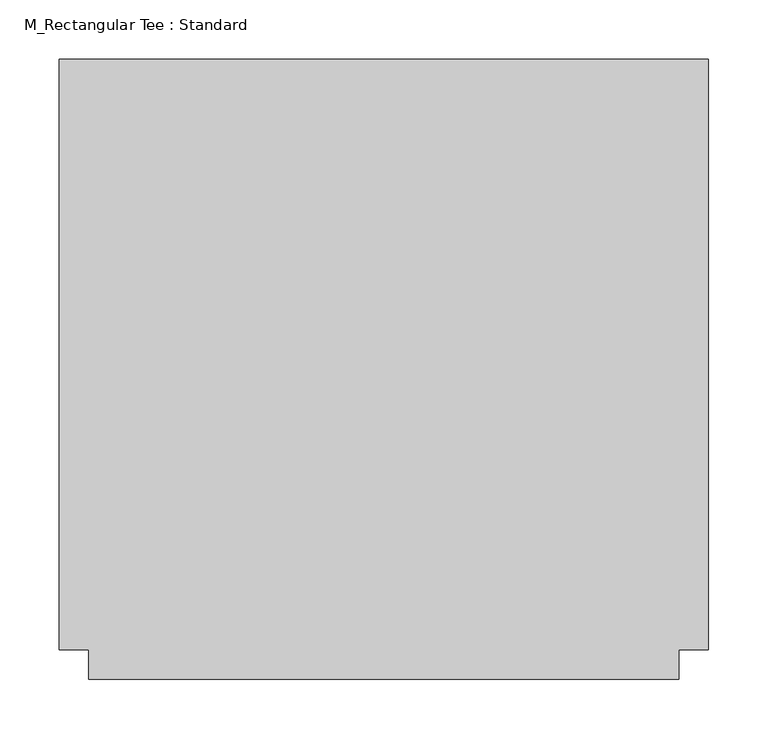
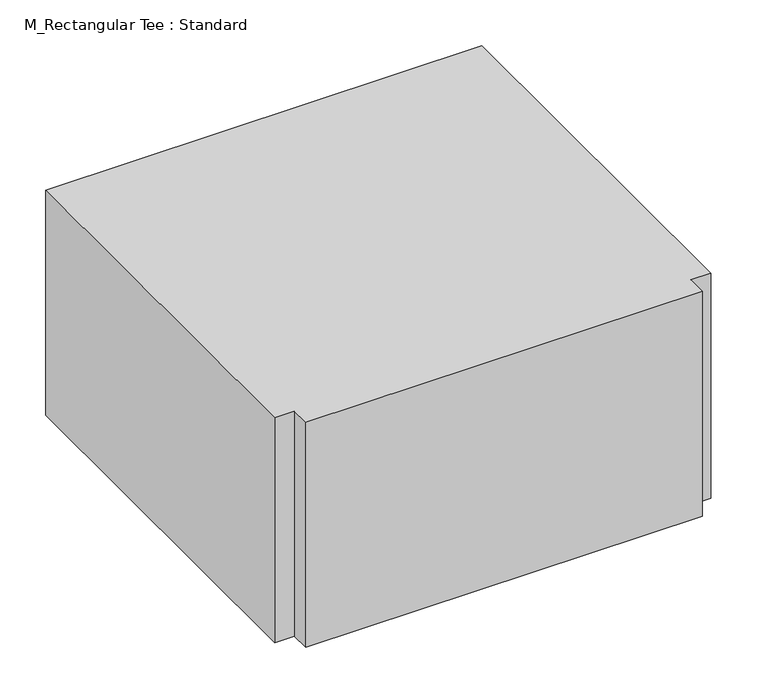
"""IFC4 building model written with IfcOpenShell, lengths in millimetres: duct fitting geometry, M_Rectangular Tee : Standard."""

from ifc_helpers import new_model, si_unit, frame, origin, place, context, project, spatial, polyline, outline, extrude, source, transform, mapped, element, save


def m_rectangular_tee_standard_99a5f8b8(model_context):
    return source(origin(), model_context, "Body", "SweptSolid", [
        extrude(outline(polyline([(-275.0, -250.0), (-275.0, 250.0), (275.0, 250.0), (275.0, -250.0), (250.0, -250.0), (250.0, -275.0), (-250.0, -275.0), (-250.0, -250.0), (-275.0, -250.0)])), frame((0.0, 0.0, -150.0), z_axis=(0.0, 0.0, 1.0), x_axis=(1.0, 0.0, 0.0)), (0.0, 0.0, 1.0), 300.0),
        extrude(outline(polyline([(-275.0, 250.0), (275.0, 250.0), (275.0, -250.0), (250.0, -250.0), (250.0, -275.0), (-250.0, -275.0), (-250.0, -250.0), (-275.0, -250.0), (-275.0, 250.0)])), frame((0.0, 0.0, -150.0), z_axis=(0.0, 0.0, 1.0), x_axis=(1.0, 0.0, 0.0)), (0.0, 0.0, 1.0), 300.0),
        extrude(outline(polyline([(-275.0, -250.0), (-275.0, 250.0), (275.0, 250.0), (275.0, -250.0), (250.0, -250.0), (250.0, -275.0), (-250.0, -275.0), (-250.0, -250.0), (-275.0, -250.0)])), frame((0.0, 0.0, -150.0), z_axis=(0.0, 0.0, 1.0), x_axis=(1.0, 0.0, 0.0)), (0.0, 0.0, 1.0), 300.0),
    ])


if __name__ == "__main__":
    model = new_model("IFC4")
    model_context = context("Model", 3, world=origin())
    ifc_project = project(units=[si_unit("LENGTHUNIT", "METRE", prefix="MILLI")], contexts=[model_context])
    site = spatial("IfcSite", under=ifc_project)
    building = spatial("IfcBuilding", under=site)
    placement = place(None, origin())
    m_rectangular_tee_standard_shape = m_rectangular_tee_standard_99a5f8b8(model_context)
    element("IfcDuctFitting", 1, ObjectType="M_Rectangular Tee : Standard", at=placement, inside=building, context=model_context, shape_type="MappedRepresentation", body=[
        mapped(m_rectangular_tee_standard_shape, transform((0.0, 0.0, 0.0), x_axis=(1.0, 0.0, 0.0), y_axis=(0.0, 1.0, 0.0), z_axis=(0.0, 0.0, 1.0))),
    ])
    save(model, "model.ifc")
